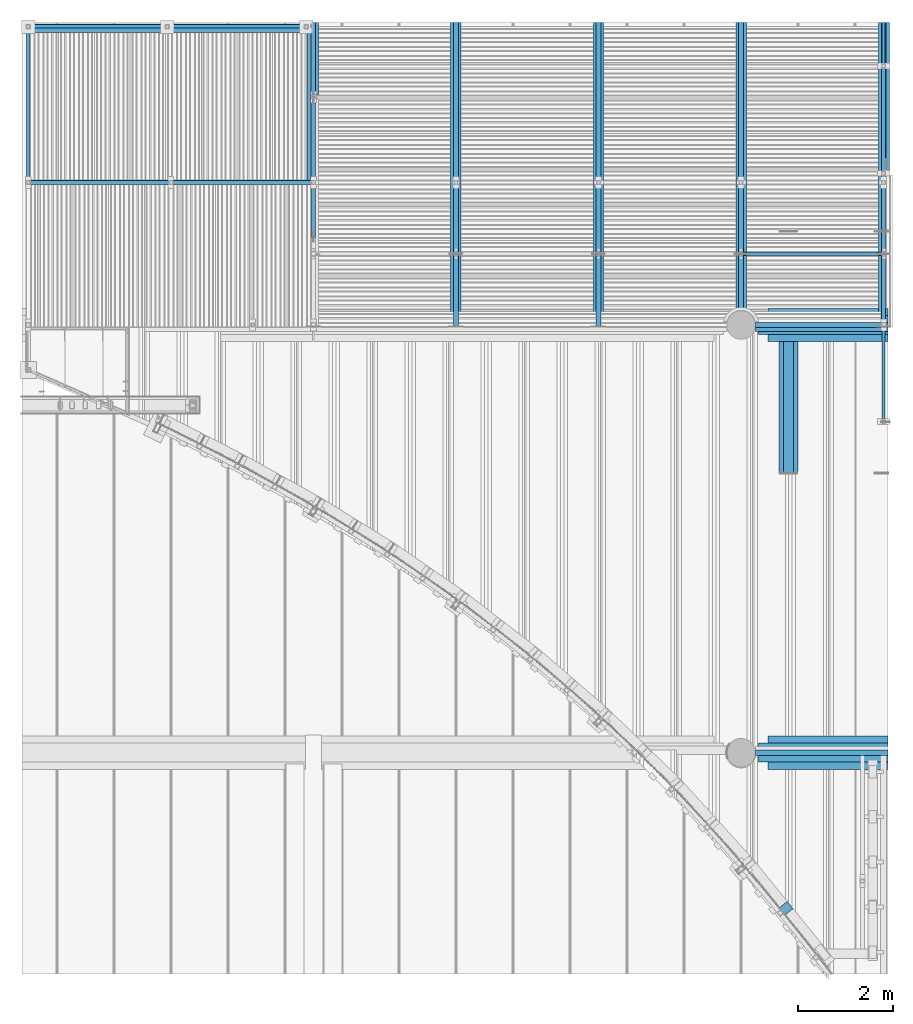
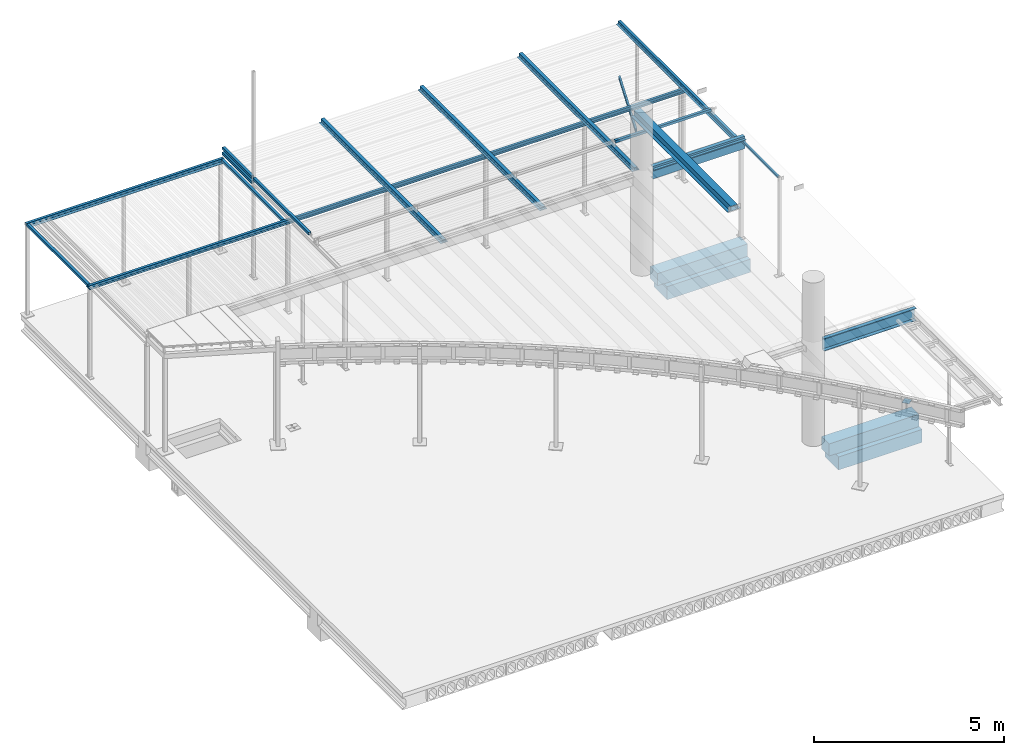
# One storey, part 23 of 98: 29 beams.
"""IFC2X3 building model written with IfcOpenShell, lengths in millimetres."""

from ifc_helpers import new_model, entity, si_unit, converted_unit, derived_unit, direction, frame, origin_with_axes, place, context, subcontext, project, spatial, faceted_brep, material, type_object, element, save


model = new_model("IFC2X3")

# Units and contexts
model_context = context("Model", 3, precision=0.01, world=frame((0.0, 4.29681676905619e-09, 0.0)), true_north=direction((4.01073788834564e-13, 1.0)))
plan_context = context("Plan", 3, precision=0.01, world=frame((0.0, 4.29681676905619e-09, 0.0)), true_north=direction((4.01073788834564e-13, 1.0)))
body_context = subcontext(model_context, "Body", "Model", "MODEL_VIEW")
ifc_project = project(units=[converted_unit("PLANEANGLEUNIT", "DEGREE", entity("IfcPositiveLengthMeasure", 0.0174532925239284), si_unit("PLANEANGLEUNIT", "RADIAN"), dimensions=[0, 0, 0, 0, 0, 0, 0]), si_unit("AREAUNIT", "SQUARE_METRE"), si_unit("LENGTHUNIT", "METRE", prefix="MILLI"), si_unit("MASSUNIT", "GRAM", prefix="KILO"), si_unit("POWERUNIT", "WATT"), si_unit("PRESSUREUNIT", "PASCAL"), si_unit("FORCEUNIT", "NEWTON", prefix="KILO"), si_unit("ELECTRICCURRENTUNIT", "AMPERE"), si_unit("THERMODYNAMICTEMPERATUREUNIT", "DEGREE_CELSIUS"), si_unit("TIMEUNIT", "SECOND"), si_unit("VOLUMEUNIT", "CUBIC_METRE"), derived_unit("LINEARVELOCITYUNIT", [(si_unit("LENGTHUNIT", "METRE"), 1), (si_unit("TIMEUNIT", "SECOND"), -1)]), derived_unit("VOLUMETRICFLOWRATEUNIT", [(si_unit("VOLUMEUNIT", "CUBIC_METRE"), 1), (si_unit("TIMEUNIT", "SECOND"), -1)]), derived_unit("THERMALTRANSMITTANCEUNIT", [(si_unit("POWERUNIT", "WATT"), 1), (si_unit("THERMODYNAMICTEMPERATUREUNIT", "KELVIN"), -1), (si_unit("AREAUNIT", "SQUARE_METRE"), -1)])], contexts=[model_context, plan_context])

# Site, building, storey
site_placement = place(None, frame((0.0, -4.29681676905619e-09, 0.0), z_axis=(0.0, 0.0, 1.0), x_axis=(1.0, 0.0, 0.0)))
site = spatial("IfcSite", under=ifc_project, at=site_placement, Name="Gardermoen", CompositionType="ELEMENT")
building_placement = place(site_placement, frame((0.0, 4.29681676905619e-09, 0.0), z_axis=(0.0, 0.0, 1.0), x_axis=(1.0, 0.0, 0.0)))
building = spatial("IfcBuilding", under=site, at=building_placement, Name="TS", CompositionType="ELEMENT")
storey_placement = place(building_placement, origin_with_axes())
storey = spatial("IfcBuildingStorey", under=building, at=storey_placement, Name="D", CompositionType="ELEMENT", Elevation=0.0)

# Beams
beam_type_1 = type_object("IfcBeamType", Name="L80*10", PredefinedType="NOTDEFINED")
beam_1_placement = place(storey_placement, frame((529299.99999999, 414404.98, 207060.001811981), z_axis=(0.0, -1.0, 0.0), x_axis=(1.0, 0.0, 0.0)))
element("IfcBeam", 1, at=beam_1_placement, inside=storey, type_object=beam_type_1, Name="STÅLBJELKE", ObjectType="L80*10", context=body_context, shape_type="Brep", body=[
    faceted_brep([(2795.00000001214, 40.0, -40.0), (2795.00000001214, 40.0, 40.0), (0.0, 40.0, 40.0), (0.0, 40.0, -40.0), (2795.00000001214, 30.0, 40.0), (0.0, 30.0, 40.0), (2795.00000001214, 30.0, -30.0), (0.0, 30.0, -30.0), (2795.00000001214, -40.0, -30.0), (0.0, -40.0, -30.0), (2795.00000001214, -40.0, -40.0), (0.0, -40.0, -40.0)], [[[0, 1, 2, 3]], [[1, 4, 5, 2]], [[4, 6, 7, 5]], [[6, 8, 9, 7]], [[8, 10, 11, 9]], [[10, 0, 3, 11]], [[3, 2, 5, 7, 9, 11]], [[10, 8, 6, 4, 1, 0]]], orient=[[False], [False], [False], [False], [False], [False], [False], [False]]),
])
ifc_material = material(Name="STEEL/S355")
beam_type_2 = type_object("IfcBeamType", Name="RHS80*5", PredefinedType="NOTDEFINED")
for number, where, z_axis, x_axis in (
    (2, (520000.000001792, 419255.000747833, 207119.999851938), (0.0, 0.0, -1.0), (0.0, -1.0, 0.0)),
    (3, (529044.999999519, 416000.000280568, 207119.999854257), (0.0, 0.0, -1.0), (1.0, 0.0, 0.0)),
):
    element("IfcBeam", number, at=place(storey_placement, frame(where, z_axis=z_axis, x_axis=x_axis)), inside=storey, type_object=beam_type_2, material=ifc_material, Name="STÅLBJELKE", ObjectType="RHS80*5", context=body_context, shape_type="Brep", body=[
        faceted_brep([(0.0, 35.0, -35.0), (0.0, -35.0, -35.0), (2910.0007787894, -35.0, -35.0), (2910.0007787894, 35.0, -35.0), (0.0, -35.0, 35.0), (2910.0007787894, -35.0, 35.0), (0.0, 35.0, 35.0), (2910.0007787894, 35.0, 35.0), (0.0, 40.0, -40.0), (0.0, 40.0, 40.0), (2910.0007787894, 40.0, 40.0), (2910.0007787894, 40.0, -40.0), (0.0, -40.0, 40.0), (2910.0007787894, -40.0, 40.0), (0.0, -40.0, -40.0), (2910.0007787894, -40.0, -40.0)], [[[0, 1, 2, 3]], [[1, 4, 5, 2]], [[4, 6, 7, 5]], [[6, 0, 3, 7]], [[8, 9, 10, 11]], [[9, 12, 13, 10]], [[12, 14, 15, 13]], [[14, 8, 11, 15]], [[13, 15, 11, 10], [5, 7, 3, 2]], [[14, 12, 9, 8], [6, 4, 1, 0]]]),
    ])
beam_2_placement = place(storey_placement, frame((520000.000001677, 422105.000747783, 207119.999851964), z_axis=(0.0, 0.0, -1.0), x_axis=(0.0, -1.0, 0.0)))
element("IfcBeam", 4, at=beam_2_placement, inside=storey, type_object=beam_type_2, Name="STÅLBJELKE", ObjectType="RHS80*5", context=body_context, shape_type="Brep", body=[
    faceted_brep([(1234.80929437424, -34.0, -34.0), (1234.80929437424, 34.0, -34.0), (2760.0, 34.0, -34.0), (2760.0, -34.0, -34.0), (1234.80929437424, -34.0, 34.0), (2760.0, -34.0, 34.0), (1234.80929437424, 34.0, 34.0), (2760.0, 34.0, 34.0), (1234.80929437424, 40.0, 40.0), (1234.80929437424, 40.0, -40.0), (2760.0, 40.0, -40.0), (2760.0, 40.0, 40.0), (1234.80929437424, -40.0, 40.0), (2760.0, -40.0, 40.0), (1234.80929437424, -40.0, -40.0), (2760.0, -40.0, -40.0)], [[[0, 1, 2, 3]], [[4, 0, 3, 5]], [[6, 4, 5, 7]], [[1, 6, 7, 2]], [[8, 9, 10, 11]], [[12, 8, 11, 13]], [[14, 12, 13, 15]], [[9, 14, 15, 10]], [[11, 10, 15, 13], [3, 2, 7, 5]], [[12, 14, 9, 8], [4, 6, 1, 0]]], orient=[[False], [False], [False], [False], [False], [False], [False], [False], [False, False], [False, False]]),
])
beam_type_3 = type_object("IfcBeamType", Name="RHS80*80*5", PredefinedType="NOTDEFINED")
beam_3_placement = place(storey_placement, frame((520000.0, 422110.000797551, 206964.999718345), z_axis=(0.0, 0.0, -1.0), x_axis=(0.0, -1.0, 0.0)))
element("IfcBeam", 5, at=beam_3_placement, inside=storey, type_object=beam_type_3, Name="STÅLBJELKE", ObjectType="RHS80*80*5", context=body_context, shape_type="Brep", body=[
    faceted_brep([(1239.80934414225, -35.0, -35.0), (1239.80934414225, 35.0, -35.0), (2770.00079755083, 35.0, -35.0), (2770.00079755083, -35.0, -35.0), (1239.80934414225, -35.0, 35.0), (2770.00079755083, -35.0, 35.0), (1239.80934414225, 35.0, 35.0), (2770.00079755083, 35.0, 35.0), (1239.80934414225, 40.0, 40.0), (1239.80934414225, 40.0, -40.0), (2770.00079755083, 40.0, -40.0), (2770.00079755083, 40.0, 40.0), (1239.80934414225, -40.0, 40.0), (2770.00079755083, -40.0, 40.0), (1239.80934414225, -40.0, -40.0), (2770.00079755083, -40.0, -40.0)], [[[0, 1, 2, 3]], [[4, 0, 3, 5]], [[6, 4, 5, 7]], [[1, 6, 7, 2]], [[8, 9, 10, 11]], [[12, 8, 11, 13]], [[14, 12, 13, 15]], [[9, 14, 15, 10]], [[11, 10, 15, 13], [3, 2, 7, 5]], [[12, 14, 9, 8], [4, 6, 1, 0]]], orient=[[False], [False], [False], [False], [False], [False], [False], [False], [False, False], [False, False]]),
])
beam_type_4 = type_object("IfcBeamType", Name="HSQ150*5-20*200-12*400", PredefinedType="NOTDEFINED")
beam_4_placement = place(storey_placement, frame((530000.002554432, 416468.74, 207449.0), z_axis=(0.0, 0.0, 1.0), x_axis=(0.0, -1.0, 0.0)))
element("IfcBeam", 6, at=beam_4_placement, inside=storey, type_object=beam_type_4, material=ifc_material, Name="STÅLBJELKE", ObjectType="HSQ150*5-20*200-12*400", context=body_context, shape_type="Brep", body=[
    faceted_brep([(0.0, 100.0, -69.0), (0.0, -100.0, -69.0), (5079.99999999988, -100.0, -69.0), (5079.99999999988, 100.0, -69.0), (0.0, -100.0, 61.0), (5079.99999999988, -100.0, 61.0), (0.0, 100.0, 61.0), (5079.99999999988, 100.0, 61.0), (0.0, 200.0, -81.0), (0.0, 200.0, -69.0), (5079.99999999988, 200.0, -69.0), (5079.99999999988, 200.0, -81.0), (0.0, 105.0, -69.0), (5079.99999999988, 105.0, -69.0), (0.0, 105.0, 81.0), (5079.99999999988, 105.0, 81.0), (0.0, -105.0, 81.0), (5079.99999999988, -105.0, 81.0), (0.0, -105.0, -69.0), (5079.99999999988, -105.0, -69.0), (0.0, -200.0, -69.0), (5079.99999999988, -200.0, -69.0), (0.0, -200.0, -81.0), (5079.99999999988, -200.0, -81.0)], [[[0, 1, 2, 3]], [[1, 4, 5, 2]], [[4, 6, 7, 5]], [[6, 0, 3, 7]], [[8, 9, 10, 11]], [[9, 12, 13, 10]], [[12, 14, 15, 13]], [[14, 16, 17, 15]], [[16, 18, 19, 17]], [[18, 20, 21, 19]], [[20, 22, 23, 21]], [[22, 8, 11, 23]], [[13, 15, 17, 19, 21, 23, 11, 10], [5, 7, 3, 2]], [[22, 20, 18, 16, 14, 12, 9, 8], [6, 4, 1, 0]]]),
])
beam_type_5 = type_object("IfcBeamType", Name="PL10*200", PredefinedType="NOTDEFINED")
beam_5_placement = place(storey_placement, frame((530093.166354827, 402215.901816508, 206828.0), z_axis=(-0.77908962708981, -0.626912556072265, 0.0), x_axis=(-0.626912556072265, 0.77908962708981, 0.0)))
element("IfcBeam", 7, at=beam_5_placement, inside=storey, type_object=beam_type_5, material=ifc_material, Name="STÅLBJELKE", ObjectType="PL10*200", context=body_context, shape_type="Brep", body=[
    faceted_brep([(0.0, -5.0, 0.0), (-0.454028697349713, -5.0, 209.566192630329), (-0.454028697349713, 5.0, 209.566192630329), (0.0, 5.0, 0.0), (199.544097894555, -5.0, 210.432800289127), (199.544097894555, 5.0, 210.432800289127), (200.0, -5.0, 0.0), (200.0, 5.0, -5.82076609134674e-11)], [[[0, 1, 2, 3]], [[1, 4, 5, 2]], [[4, 6, 7, 5]], [[6, 0, 3, 7]], [[5, 7, 3, 2]], [[6, 4, 1, 0]]]),
])
beam_type_6 = type_object("IfcBeamType", Name="RHS60*5", PredefinedType="NOTDEFINED")
beam_6_placement = place(storey_placement, frame((531999.999769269, 412509.500285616, 207059.999852), z_axis=(0.0, 0.0, 1.0), x_axis=(0.0, 1.0, 0.0)))
element("IfcBeam", 8, at=beam_6_placement, inside=storey, type_object=beam_type_6, material=ifc_material, Name="STÅLBJELKE", ObjectType="RHS60*5", context=body_context, shape_type="Brep", body=[
    faceted_brep([(0.0, 25.0, -25.0), (0.0, -25.0, -25.0), (1925.4999792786, -25.0000000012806, -24.9999999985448), (1925.49997927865, 24.9999999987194, -24.9999999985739), (0.0, -25.0, 25.0), (1925.49997927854, -25.0000000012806, 25.0000000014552), (0.0, 25.0, 25.0), (1925.4999792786, 24.9999999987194, 25.0000000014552), (0.0, 30.0, -30.0), (2.3283064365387e-10, 30.0, 30.0000000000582), (1925.4999792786, 29.9999999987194, 30.0000000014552), (1925.49997927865, 29.9999999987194, -29.9999999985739), (2.3283064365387e-10, -30.0, 30.0000000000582), (1925.49997927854, -30.0000000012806, 30.0000000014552), (-1.45519152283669e-10, -30.0, -30.0000000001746), (1925.4999792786, -30.0000000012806, -29.9999999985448)], [[[0, 1, 2, 3]], [[1, 4, 5, 2]], [[4, 6, 7, 5]], [[6, 0, 3, 7]], [[8, 9, 10, 11]], [[9, 12, 13, 10]], [[12, 14, 15, 13]], [[14, 8, 11, 15]], [[13, 15, 11, 10], [5, 7, 3, 2]], [[14, 12, 9, 8], [6, 4, 1, 0]]]),
])
beam_type_7 = type_object("IfcBeamType", Name="RHS80*6", PredefinedType="NOTDEFINED")
for number, where, z_axis, x_axis in (
    (9, (519900.0, 420745.00496895, 206839.999718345), (0.0, 0.0, 1.0), (0.0, -1.0, 0.0)),
    (10, (514000.0, 420745.00496895, 206839.999718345), (0.0, 0.0, 1.0), (0.0, -1.0, 0.0)),
):
    element("IfcBeam", number, at=place(storey_placement, frame(where, z_axis=z_axis, x_axis=x_axis)), inside=storey, type_object=beam_type_7, material=ifc_material, Name="STÅLBJELKE", ObjectType="RHS80*6", context=body_context, shape_type="Brep", body=[
        faceted_brep([(0.0, 34.0, -34.0), (0.0, -34.0, -34.0), (3200.04489697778, -34.0, -34.0), (3200.04489697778, 34.0, -34.0), (0.0, -34.0, 34.0), (3200.04489697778, -34.0, 34.0), (0.0, 34.0, 34.0), (3200.04489697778, 34.0, 34.0), (0.0, 40.0, -40.0), (0.0, 40.0, 40.0), (3200.04489697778, 40.0, 40.0), (3200.04489697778, 40.0, -40.0), (0.0, -40.0, 40.0), (3200.04489697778, -40.0, 40.0), (0.0, -40.0, -40.0), (3200.04489697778, -40.0, -40.0)], [[[0, 1, 2, 3]], [[1, 4, 5, 2]], [[4, 6, 7, 5]], [[6, 0, 3, 7]], [[8, 9, 10, 11]], [[9, 12, 13, 10]], [[12, 14, 15, 13]], [[14, 8, 11, 15]], [[13, 15, 11, 10], [5, 7, 3, 2]], [[14, 12, 9, 8], [6, 4, 1, 0]]]),
    ])
beam_7_placement = place(storey_placement, frame((513960.0, 420790.00496895, 206839.999718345), z_axis=(0.0, 0.0, 1.0), x_axis=(1.0, 0.0, 0.0)))
element("IfcBeam", 11, at=beam_7_placement, inside=storey, type_object=beam_type_7, material=ifc_material, Name="STÅLBJELKE", ObjectType="RHS80*6", context=body_context, shape_type="Brep", body=[
    faceted_brep([(0.0, 34.0, -34.0), (0.0, -34.0, -34.0), (5980.0, -34.0, -34.0), (5980.0, 34.0, -34.0), (0.0, -34.0, 34.0), (5980.0, -34.0, 34.0), (0.0, 34.0, 34.0), (5980.0, 34.0, 34.0), (0.0, 40.0, -40.0), (0.0, 40.0, 40.0), (5980.0, 40.0, 40.0), (5980.0, 40.0, -40.0), (0.0, -40.0, 40.0), (5980.0, -40.0, 40.0), (0.0, -40.0, -40.0), (5980.0, -40.0, -40.0)], [[[0, 1, 2, 3]], [[1, 4, 5, 2]], [[4, 6, 7, 5]], [[6, 0, 3, 7]], [[8, 9, 10, 11]], [[9, 12, 13, 10]], [[12, 14, 15, 13]], [[14, 8, 11, 15]], [[13, 15, 11, 10], [5, 7, 3, 2]], [[14, 12, 9, 8], [6, 4, 1, 0]]]),
])
beam_type_8 = type_object("IfcBeamType", Name="PL200*10", PredefinedType="NOTDEFINED")
beam_8_placement = place(storey_placement, frame((513950.00086715, 417499.960071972, 206794.999718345), z_axis=(0.0, 1.0, 0.0), x_axis=(1.0, 0.0, 0.0)))
element("IfcBeam", 12, at=beam_8_placement, inside=storey, type_object=beam_type_8, material=ifc_material, Name="STÅLBJELKE", ObjectType="PL200*10", context=body_context, shape_type="Brep", body=[
    faceted_brep([(1.19325704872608e-09, 5.00000000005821, -99.9999999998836), (-4.13763336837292e-06, 4.99999999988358, 100.0), (18090.0032514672, 5.0, 100.0), (18090.0032514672, 5.0, -100.0), (-4.13769157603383e-06, -5.0, 100.0), (18090.0032514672, -5.0, 100.0), (1.28056854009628e-09, -5.0, -99.9999999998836), (18090.0032514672, -5.0, -100.0)], [[[0, 1, 2, 3]], [[1, 4, 5, 2]], [[4, 6, 7, 5]], [[6, 0, 3, 7]], [[5, 7, 3, 2]], [[6, 4, 1, 0]]]),
])
beam_type_9 = type_object("IfcBeamType", Name="L120*80*10", PredefinedType="NOTDEFINED")
beam_9_placement = place(storey_placement, frame((532080.012747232, 417685.000681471, 206839.999714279), z_axis=(0.0, 0.0, 1.0), x_axis=(0.0, 1.0, 0.0)))
element("IfcBeam", 13, at=beam_9_placement, inside=storey, type_object=beam_type_9, Name="STÅLBJELKE", ObjectType="L120*80*10", context=body_context, shape_type="Brep", body=[
    faceted_brep([(0.0, -40.0, -52.0), (0.0, 40.0, -52.0), (51.0001220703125, 40.0, -52.0), (51.0001220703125, -40.0, -52.0), (51.0001220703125, 30.0, -50.0), (51.0001220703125, -40.0, -50.0), (51.0001220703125, 40.0, 60.0), (51.0001220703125, 30.0, 60.0), (3185.19077193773, -40.0, -60.0), (3185.19077193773, 40.0, -60.0), (0.0, 40.0, -60.0), (0.0, -40.0, -60.0), (3185.19077193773, 30.0, 60.0), (3185.19077193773, 30.0, -50.0), (3185.19077193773, -40.0, -50.0), (3185.19077193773, 40.0, 60.0)], [[[0, 1, 2, 3]], [[4, 5, 3, 2, 6, 7]], [[8, 9, 10, 11]], [[12, 13, 4, 7]], [[13, 14, 5, 4]], [[14, 8, 11, 0, 3, 5]], [[1, 0, 11, 10]], [[9, 15, 6, 2, 1, 10]], [[15, 12, 7, 6]], [[14, 13, 12, 15, 9, 8]]], orient=[[False], [False], [False], [False], [False], [False], [False], [False], [False], [False]]),
])
beam_type_10 = type_object("IfcBeamType", Name="10*180", PredefinedType="NOTDEFINED")
beam_10_placement = place(storey_placement, frame((513960.0, 420750.00496895, 206794.999718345), z_axis=(0.0, 0.0, 1.0), x_axis=(1.0, 0.0, 0.0)))
element("IfcBeam", 14, at=beam_10_placement, inside=storey, type_object=beam_type_10, material=ifc_material, Name="STÅLBJELKE", ObjectType="10*180", context=body_context, shape_type="Brep", body=[
    faceted_brep([(0.0, 90.0, -5.0), (0.0, 90.0, 5.0), (5980.0, 90.0, 5.0), (5980.0, 90.0, -5.0), (0.0, -90.0, 5.0), (5980.0, -90.0, 5.0), (0.0, -90.0, -5.0), (5980.0, -90.0, -5.0)], [[[0, 1, 2, 3]], [[1, 4, 5, 2]], [[4, 6, 7, 5]], [[6, 0, 3, 7]], [[5, 7, 3, 2]], [[6, 4, 1, 0]]]),
])
beam_type_11 = type_object("IfcBeamType", Name="RHS100*8", PredefinedType="NOTDEFINED")
beam_11_placement = place(storey_placement, frame((529000.0, 422190.000797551, 206974.999718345), z_axis=(0.0, 0.0, -1.0), x_axis=(0.0, -1.0, 0.0)))
element("IfcBeam", 15, at=beam_11_placement, inside=storey, type_object=beam_type_11, Name="STÅLBJELKE", ObjectType="RHS100*8", context=body_context, shape_type="Brep", body=[
    faceted_brep([(1319.80934414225, -42.0, -42.0), (1319.80934414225, 42.0000000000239, -42.000000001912), (7381.00079755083, 42.0, -42.0), (7381.00079755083, -42.0, -42.0), (1319.80934414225, -42.0, 42.0), (7381.00079755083, -42.0, 42.0), (1319.80934414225, 42.0, 42.0), (7381.00079755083, 42.0, 42.0), (1319.80934414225, 50.0, 50.0), (1319.80934414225, 50.0, -50.0), (7381.00079755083, 50.0, -50.0), (7381.00079755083, 50.0, 50.0), (1319.80934414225, -50.0, 50.0), (7381.00079755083, -50.0, 50.0), (1319.80934414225, -50.0, -50.0), (7381.00079755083, -50.0, -50.0)], [[[0, 1, 2, 3]], [[4, 0, 3, 5]], [[6, 4, 5, 7]], [[1, 6, 7, 2]], [[8, 9, 10, 11]], [[12, 8, 11, 13]], [[14, 12, 13, 15]], [[9, 14, 15, 10]], [[11, 10, 15, 13], [3, 2, 7, 5]], [[12, 14, 9, 8], [4, 6, 1, 0]]], orient=[[False], [False], [False], [False], [False], [False], [False], [False], [False, False], [False, False]]),
])
beam_type_12 = type_object("IfcBeamType", Name="UNP400", PredefinedType="NOTDEFINED")
beam_12_placement = place(storey_placement, frame((529299.998435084, 414499.981078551, 206959.999718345), z_axis=(0.0, 0.0, -1.0), x_axis=(1.0, 0.0, 0.0)))
element("IfcBeam", 16, at=beam_12_placement, inside=storey, type_object=beam_type_12, Name="STÅLBJELKE", ObjectType="UNP400", context=body_context, shape_type="Brep", body=[
    faceted_brep([(2795.00156491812, 54.9999999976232, -200.0), (2795.00156491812, 54.9999999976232, 200.0), (-9.89530235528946e-10, 54.9999999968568, 200.0), (-9.89530235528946e-10, 54.9999999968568, -200.0), (2795.00156491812, -54.9999999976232, 200.0), (9.89530235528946e-10, -54.9999999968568, 200.0), (2795.00156491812, -54.9999999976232, 184.75), (9.89530235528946e-10, -54.9999999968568, 184.75), (2795.00156491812, 40.9999999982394, 179.950000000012), (-6.98491930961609e-10, 40.9999999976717, 179.950000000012), (2795.00156491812, 40.9999999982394, -179.950000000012), (-6.98491930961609e-10, 40.9999999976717, -179.950000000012), (2795.00156491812, -54.9999999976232, -184.75), (9.89530235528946e-10, -54.9999999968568, -184.75), (2795.00156491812, -54.9999999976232, -200.0), (9.89530235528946e-10, -54.9999999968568, -200.0)], [[[0, 1, 2, 3]], [[1, 4, 5, 2]], [[4, 6, 7, 5]], [[6, 8, 9, 7]], [[8, 10, 11, 9]], [[10, 12, 13, 11]], [[12, 14, 15, 13]], [[14, 0, 3, 15]], [[3, 2, 5, 7, 9, 11, 13, 15]], [[14, 12, 10, 8, 6, 4, 1, 0]]], orient=[[False], [False], [False], [False], [False], [False], [False], [False], [False], [False]]),
])
beam_13_placement = place(storey_placement, frame((529300.001513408, 405499.984616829, 206900.001811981), z_axis=(0.0, 0.0, 1.0), x_axis=(1.0, 0.0, 0.0)))
element("IfcBeam", 17, at=beam_13_placement, inside=storey, type_object=beam_type_12, Name="STÅLBJELKE", ObjectType="UNP400", context=body_context, shape_type="Brep", body=[
    faceted_brep([(2794.9984865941, 54.999999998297, -200.0), (2794.9984865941, 54.999999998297, 200.0), (-9.89530235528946e-10, 54.9999999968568, 200.0), (-9.89530235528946e-10, 54.9999999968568, -200.0), (2794.9984865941, -54.999999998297, 200.0), (9.89530235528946e-10, -54.9999999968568, 200.0), (2794.9984865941, -54.999999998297, 184.75), (9.89530235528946e-10, -54.9999999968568, 184.75), (2794.9984865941, 40.9999999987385, 179.950000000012), (-6.98491930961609e-10, 40.9999999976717, 179.950000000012), (2794.9984865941, 40.9999999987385, -179.950000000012), (-6.98491930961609e-10, 40.9999999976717, -179.950000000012), (2794.9984865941, -54.999999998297, -184.75), (9.89530235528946e-10, -54.9999999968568, -184.75), (2794.9984865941, -54.999999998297, -200.0), (9.89530235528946e-10, -54.9999999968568, -200.0)], [[[0, 1, 2, 3]], [[1, 4, 5, 2]], [[4, 6, 7, 5]], [[6, 8, 9, 7]], [[8, 10, 11, 9]], [[10, 12, 13, 11]], [[12, 14, 15, 13]], [[14, 0, 3, 15]], [[3, 2, 5, 7, 9, 11, 13, 15]], [[14, 12, 10, 8, 6, 4, 1, 0]]], orient=[[False], [False], [False], [False], [False], [False], [False], [False], [False], [False]]),
])
beam_type_13 = type_object("IfcBeamType", Name="RHS60*6", PredefinedType="NOTDEFINED")
beam_14_placement = place(storey_placement, frame((531999.974834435, 419965.001078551, 203975.0), z_axis=(0.999999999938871, -1.10570013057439e-05, 0.0), x_axis=(6.61711269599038e-06, 0.598454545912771, 0.801156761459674)))
element("IfcBeam", 18, at=beam_14_placement, inside=storey, type_object=beam_type_13, Name="STÅLBJELKE", ObjectType="RHS60*6", context=body_context, shape_type="Brep", body=[
    faceted_brep([(1544.67516055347, 24.0000000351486, -23.9999999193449), (1480.41710651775, -23.9999999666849, -23.9999999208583), (9.64380759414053, -23.999999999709, -23.9999999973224), (73.9018616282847, 24.0000000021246, -23.999999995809), (1480.41799392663, -23.9999999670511, 24.0000000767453), (9.64380845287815, -24.0000000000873, 24.0000000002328), (1544.67604739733, 24.0000000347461, 24.0000000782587), (73.9018624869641, 24.0000000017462, 24.0000000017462), (1552.70730645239, 30.0000000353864, -29.9999999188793), (1552.70841569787, 30.000000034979, 30.000000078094), (81.9341193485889, 30.0000000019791, 30.0000000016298), (81.9341182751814, 30.0000000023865, -29.9999999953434), (1472.38584746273, -29.9999999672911, 30.0000000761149), (1.61155180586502, -30.000000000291, 29.9999999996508), (1472.38473890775, -29.9999999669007, -29.9999999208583), (1.61155073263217, -29.9999999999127, -29.9999999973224), (1552.70841500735, 30.000000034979, 30.000000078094), (1480.41799336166, -23.9999999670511, 24.0000000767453)], [[[0, 1, 2, 3]], [[1, 4, 5, 2]], [[4, 6, 7, 5]], [[6, 0, 3, 7]], [[8, 9, 10, 11]], [[9, 12, 13, 10]], [[12, 14, 15, 13]], [[14, 8, 11, 15]], [[11, 10, 13, 15], [3, 2, 5, 7]], [[14, 12, 16, 8], [6, 17, 1, 0]]], orient=[[False], [False], [False], [False], [False], [False], [False], [False], [False, False], [False, False]]),
])
beam_type_14 = type_object("IfcBeamType", Name="10*150", PredefinedType="NOTDEFINED")
beam_15_placement = place(storey_placement, frame((520030.0, 422107.000797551, 206919.999718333), z_axis=(0.0, 0.0, -1.0), x_axis=(0.0, -1.0, 0.0)))
element("IfcBeam", 19, at=beam_15_placement, inside=storey, type_object=beam_type_14, Name="STÅLBJELKE", ObjectType="10*150", context=body_context, shape_type="Brep", body=[
    faceted_brep([(1236.80934414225, 75.0, 5.0), (1236.80934414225, 75.0, -5.0), (2767.00079755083, 75.0, -5.0), (2767.00079755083, 75.0, 5.0), (1236.80934414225, -75.0, 5.0), (2767.00079755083, -75.0, 5.0), (1236.80934414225, -75.0, -5.0), (2767.00079755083, -75.0, -5.0)], [[[0, 1, 2, 3]], [[4, 0, 3, 5]], [[6, 4, 5, 7]], [[1, 6, 7, 2]], [[3, 2, 7, 5]], [[4, 6, 1, 0]]], orient=[[False], [False], [False], [False], [False], [False]]),
])
beam_16_placement = place(storey_placement, frame((531970.0, 422190.000797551, 206919.999718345), z_axis=(0.0, 0.0, -1.0), x_axis=(0.0, -1.0, 0.0)))
element("IfcBeam", 20, at=beam_16_placement, inside=storey, type_object=beam_type_14, Name="STÅLBJELKE", ObjectType="10*150", context=body_context, shape_type="Brep", body=[
    faceted_brep([(1319.80934414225, 75.0, 5.0), (1319.80934414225, 75.0, -5.0), (7731.00079755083, 75.0, -5.0), (7731.00079755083, 75.0, 5.0), (1319.80934414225, -75.0, 5.0), (7731.00079755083, -75.0, 5.0), (1319.80934414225, -75.0, -5.0), (7731.00079755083, -75.0, -5.0)], [[[0, 1, 2, 3]], [[4, 0, 3, 5]], [[6, 4, 5, 7]], [[1, 6, 7, 2]], [[3, 2, 7, 5]], [[4, 6, 1, 0]]], orient=[[False], [False], [False], [False], [False], [False]]),
])
beam_type_15 = type_object("IfcBeamType", Name="RHS100*100*8", PredefinedType="NOTDEFINED")
for number, where, z_axis, x_axis in (
    (21, (523000.0, 422190.000797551, 206974.999718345), (0.0, 0.0, -1.0), (0.0, -1.0, 0.0)),
    (22, (526000.0, 422190.000797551, 206974.999718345), (0.0, 0.0, -1.0), (0.0, -1.0, 0.0)),
):
    element("IfcBeam", number, at=place(storey_placement, frame(where, z_axis=z_axis, x_axis=x_axis)), inside=storey, type_object=beam_type_15, Name="STÅLBJELKE", ObjectType="RHS100*100*8", context=body_context, shape_type="Brep", body=[
        faceted_brep([(1319.80932691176, -42.0, -42.0), (1319.80934414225, 42.0000000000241, -42.0000000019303), (7721.00799540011, 42.0, -42.0), (7721.0078946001, -42.0, -42.0), (1319.80934414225, -42.0, 42.0), (7721.0078946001, -42.0, 42.0), (1319.80934414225, 42.0, 42.0), (7721.00799540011, 42.0, 42.0), (1319.80934414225, 50.0, 50.0), (1319.80934414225, 50.0, -50.0), (7721.00800500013, 50.0, -50.0), (7721.00800500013, 50.0, 50.0), (1319.80932362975, -50.0, 50.0), (7721.00788500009, -50.0, 50.0), (1319.80934414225, -50.0, -50.0), (7721.00788500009, -50.0, -50.0), (1319.80934414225, -50.0, 50.0), (1319.80934414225, -42.0, -42.0)], [[[0, 1, 2, 3]], [[4, 0, 3, 5]], [[6, 4, 5, 7]], [[1, 6, 7, 2]], [[8, 9, 10, 11]], [[12, 8, 11, 13]], [[14, 12, 13, 15]], [[9, 14, 15, 10]], [[11, 10, 15, 13], [3, 2, 7, 5]], [[16, 14, 9, 8], [4, 6, 1, 17]]], orient=[[False], [False], [False], [False], [False], [False], [False], [False], [False, False], [False, False]]),
    ])
beam_type_16 = type_object("IfcBeamType", Name="10*220", PredefinedType="NOTDEFINED")
for number, where, z_axis, x_axis in (
    (23, (523000.0, 422190.000797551, 206919.999718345), (0.0, 0.0, -1.0), (0.0, -1.0, 0.0)),
    (24, (526000.0, 422190.000797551, 206919.999718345), (0.0, 0.0, -1.0), (0.0, -1.0, 0.0)),
):
    element("IfcBeam", number, at=place(storey_placement, frame(where, z_axis=z_axis, x_axis=x_axis)), inside=storey, type_object=beam_type_16, Name="STÅLBJELKE", ObjectType="10*220", context=body_context, shape_type="Brep", body=[
        faceted_brep([(1319.80934414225, 110.0, 5.0), (1319.80934414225, 110.0, -5.0), (7721.00809699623, 110.0, -5.0), (7721.00809699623, 110.0, 5.0), (1319.80929525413, -110.0, 5.0), (7721.00781099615, -110.0, 5.0), (1319.80934414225, -110.0, -5.0), (7721.00781099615, -110.0, -5.0), (1319.80934414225, -110.0, 5.0)], [[[0, 1, 2, 3]], [[4, 0, 3, 5]], [[6, 4, 5, 7]], [[1, 6, 7, 2]], [[3, 2, 7, 5]], [[8, 6, 1, 0]]], orient=[[False], [False], [False], [False], [False], [False]]),
    ])
beam_17_placement = place(storey_placement, frame((529000.0, 422190.000797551, 206919.999718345), z_axis=(0.0, 0.0, -1.0), x_axis=(0.0, -1.0, 0.0)))
element("IfcBeam", 25, at=beam_17_placement, inside=storey, type_object=beam_type_16, Name="STÅLBJELKE", ObjectType="10*220", context=body_context, shape_type="Brep", body=[
    faceted_brep([(1319.80934414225, 110.0, 5.0), (1319.80934414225, 110.0, -5.0), (7381.00079755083, 110.0, -5.0), (7381.00079755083, 110.0, 5.0), (1319.80934414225, -110.0, 5.0), (7381.00079755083, -110.0, 5.0), (1319.80934414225, -110.0, -5.0), (7381.00079755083, -110.0, -5.0)], [[[0, 1, 2, 3]], [[4, 0, 3, 5]], [[6, 4, 5, 7]], [[1, 6, 7, 2]], [[3, 2, 7, 5]], [[4, 6, 1, 0]]], orient=[[False], [False], [False], [False], [False], [False]]),
])
beam_type_17 = type_object("IfcBeamType", Name="RHS80*80*8", PredefinedType="NOTDEFINED")
beam_18_placement = place(storey_placement, frame((532000.0, 422190.000797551, 206964.999718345), z_axis=(0.0, 0.0, -1.0), x_axis=(0.0, -1.0, 0.0)))
element("IfcBeam", 26, at=beam_18_placement, inside=storey, type_object=beam_type_17, Name="STÅLBJELKE", ObjectType="RHS80*80*8", context=body_context, shape_type="Brep", body=[
    faceted_brep([(1319.80934414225, -32.0, -32.0), (1319.80934414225, 32.0, -31.9999999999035), (7721.01971899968, 32.0, -32.0), (7721.01971899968, -32.0, -32.0), (1319.80934414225, -32.0, 32.0), (7721.01971899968, -32.0, 32.0), (1319.80934414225, 32.0, 32.0), (7721.01971899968, 32.0, 32.0), (1319.80934414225, 40.0, 40.0), (1319.80934414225, 40.0, -40.0), (7721.01971899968, 40.0, -40.0), (7721.01971899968, 40.0, 40.0), (1319.80934414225, -40.0, 40.0), (7721.01971899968, -40.0, 40.0), (1319.80934414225, -40.0, -40.0), (7721.01971899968, -40.0, -40.0)], [[[0, 1, 2, 3]], [[4, 0, 3, 5]], [[6, 4, 5, 7]], [[1, 6, 7, 2]], [[8, 9, 10, 11]], [[12, 8, 11, 13]], [[14, 12, 13, 15]], [[9, 14, 15, 10]], [[11, 10, 15, 13], [3, 2, 7, 5]], [[12, 14, 9, 8], [4, 6, 1, 0]]], orient=[[False], [False], [False], [False], [False], [False], [False], [False], [False, False], [False, False]]),
])
beam_type_18 = type_object("IfcBeamType", Name="RHS80*4", PredefinedType="NOTDEFINED")
beam_19_placement = place(storey_placement, frame((513950.00086715, 417499.960071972, 206839.999718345), z_axis=(0.0, 1.0, 0.0), x_axis=(1.0, 0.0, 0.0)))
element("IfcBeam", 27, at=beam_19_placement, inside=storey, type_object=beam_type_18, material=ifc_material, Name="STÅLBJELKE", ObjectType="RHS80*4", context=body_context, shape_type="Brep", body=[
    faceted_brep([(-4.07453626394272e-10, 36.0, -36.0000000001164), (-4.07453626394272e-10, -36.0, -36.0000000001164), (18090.006887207, -36.0, -36.0), (18090.006887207, 36.0, -36.0), (4.07453626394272e-10, -36.0, 36.0), (18090.006887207, -36.0, 36.0), (4.07453626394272e-10, 36.0, 36.0), (18090.006887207, 36.0, 36.0), (0.0, 40.0, -40.0), (0.0, 40.0, 40.0), (18090.006887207, 40.0, 40.0), (18090.006887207, 40.0, -40.0), (0.0, -40.0, 40.0), (18090.006887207, -40.0, 40.0), (0.0, -40.0, -40.0), (18090.006887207, -40.0, -40.0)], [[[0, 1, 2, 3]], [[1, 4, 5, 2]], [[4, 6, 7, 5]], [[6, 0, 3, 7]], [[8, 9, 10, 11]], [[9, 12, 13, 10]], [[12, 14, 15, 13]], [[14, 8, 11, 15]], [[13, 15, 11, 10], [5, 7, 3, 2]], [[14, 12, 9, 8], [6, 4, 1, 0]]]),
])
beam_type_19 = type_object("IfcBeamType", Name="DLB400*815-700*420", PredefinedType="NOTDEFINED")
beam_20_placement = place(storey_placement, frame((537985.000234, 414499.995625, 203387.5), z_axis=(0.0, 0.0, 1.0), x_axis=(-0.999999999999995, -9.99999902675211e-08, 0.0)))
element("IfcBeam", 28, at=beam_20_placement, inside=storey, type_object=beam_type_19, Name="PREFABBJELKE", ObjectType="DLB400*815-700*420", context=body_context, shape_type="Brep", body=[
    faceted_brep([(8420.0, -200.0, 22.5), (8420.0, 200.0, 22.5), (8420.0, 200.0, 12.5), (8420.0, 350.0, 12.5), (8420.0, 350.0, -407.5), (8420.0, -350.0, -407.5), (8420.0, -350.0, 12.5), (8420.0, -200.0, 12.5), (8620.0, 200.0, 22.5), (8620.0, -200.0, 22.5), (5890.00018399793, -200.0, 407.5), (5890.00018399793, 200.0, 407.5), (8620.0, 200.0, 407.5), (8620.0, -200.0, 407.5), (5890.00025399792, 200.0, 12.5), (5890.00018399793, 350.0, 12.5), (5890.00026899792, 350.0, -407.5), (5890.00018399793, -350.0, -407.5), (5890.00019899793, -350.0, 12.5), (5890.00018399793, -200.0, 12.5), (5890.00028399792, -200.0, 12.5), (5890.00028399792, -350.0, 12.5), (5890.00028399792, -350.0, -407.5), (5890.00028399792, 350.0, -407.5), (5890.00028399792, 350.0, 12.5), (5890.00028399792, 200.0, 12.5), (5890.00028399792, 200.0, 407.5), (5890.00028399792, -200.0, 407.5)], [[[0, 1, 2, 3, 4, 5, 6, 7]], [[8, 1, 0, 9]], [[10, 11, 12, 13]], [[8, 9, 13, 12]], [[11, 14, 2, 1, 8, 12]], [[14, 15, 3, 2]], [[15, 16, 4, 3]], [[16, 17, 5, 4]], [[17, 18, 6, 5]], [[18, 19, 7, 6]], [[19, 10, 13, 9, 0, 7]], [[20, 21, 22, 23, 24, 25, 26, 27]]], orient=[[False], [False], [False], [False], [False], [False], [False], [False], [False], [False], [False], [False]]),
])
beam_21_placement = place(storey_placement, frame((535375.000234, 405499.995625, 203387.5), z_axis=(0.0, 0.0, 1.0), x_axis=(-0.999999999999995, -9.99999902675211e-08, 0.0)))
element("IfcBeam", 29, at=beam_21_placement, inside=storey, type_object=beam_type_19, Name="PREFABBJELKE", ObjectType="DLB400*815-700*420", context=body_context, shape_type="Brep", body=[
    faceted_brep([(3280.00018399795, -200.0, 407.5), (3280.00018399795, 200.0, 407.5), (6010.0, 200.0, 407.5), (6010.0, -200.0, 407.5), (6010.0, 200.0, 22.5), (6010.0, -200.0, 22.5), (5810.0, 200.0, 22.5), (5810.0, -200.0, 22.5), (5810.0, 200.0, 12.5), (5810.0, 350.0, 12.5), (5810.0, 350.0, -407.5), (5810.0, -350.0, -407.5), (5810.0, -350.0, 12.5), (5810.0, -200.0, 12.5), (3280.00018399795, -350.0, 12.5), (3280.00018399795, -200.0, 12.5), (3280.00019899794, -350.0, -407.5), (3280.00018399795, 350.0, -407.5), (3280.00026899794, 350.0, 12.5), (3280.00018399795, 200.0, 12.5), (3280.00028399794, -200.0, 12.5), (3280.00028399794, -350.0, 12.5), (3280.00028399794, -350.0, -407.5), (3280.00028399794, 350.0, -407.5), (3280.00028399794, 350.0, 12.5), (3280.00028399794, 200.0, 12.5), (3280.00028399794, 200.0, 407.5), (3280.00028399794, -200.0, 407.5)], [[[0, 1, 2, 3]], [[4, 5, 3, 2]], [[4, 6, 7, 5]], [[7, 6, 8, 9, 10, 11, 12, 13]], [[14, 15, 13, 12]], [[16, 14, 12, 11]], [[17, 16, 11, 10]], [[18, 17, 10, 9]], [[19, 18, 9, 8]], [[1, 19, 8, 6, 4, 2]], [[15, 0, 3, 5, 7, 13]], [[20, 21, 22, 23, 24, 25, 26, 27]]], orient=[[False], [False], [False], [False], [False], [False], [False], [False], [False], [False], [False], [False]]),
])

save(model, "model.ifc")
